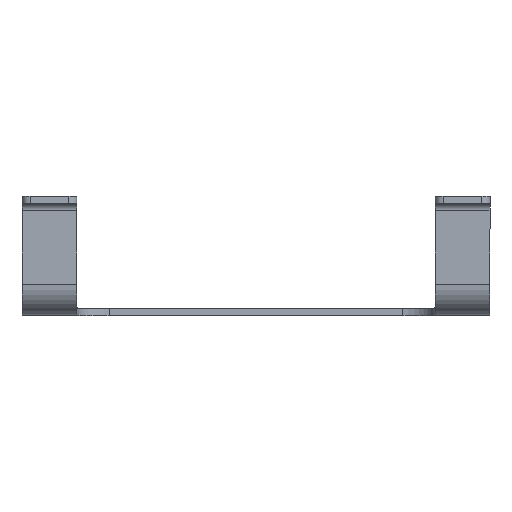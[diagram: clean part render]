
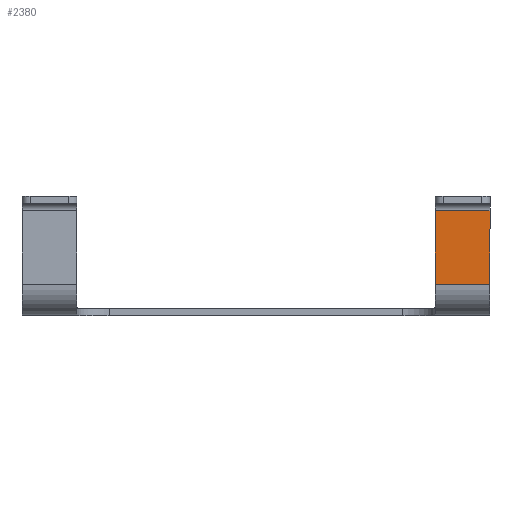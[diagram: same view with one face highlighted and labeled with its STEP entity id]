
A CAD part, front view. The second image highlights one B-rep face of the part: STEP entity #2380.
In plain terms, the highlighted planar face has unit normal (0, -1, 0).
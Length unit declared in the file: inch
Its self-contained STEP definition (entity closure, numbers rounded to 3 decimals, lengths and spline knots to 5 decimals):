
#38 = FACE_OUTER_BOUND ( 'NONE', #1548, .T. ) ;
#130 = ORIENTED_EDGE ( 'NONE', *, *, #1880, .F. ) ;
#254 = LINE ( 'NONE', #1509, #308 ) ;
#293 = EDGE_CURVE ( 'NONE', #2908, #1497, #343, .T. ) ;
#308 = VECTOR ( 'NONE', #2831, 39.37008 ) ;
#343 = LINE ( 'NONE', #2245, #868 ) ;
#406 = ORIENTED_EDGE ( 'NONE', *, *, #293, .T. ) ;
#459 = ORIENTED_EDGE ( 'NONE', *, *, #955, .T. ) ;
#627 = ORIENTED_EDGE ( 'NONE', *, *, #1956, .F. ) ;
#706 = LINE ( 'NONE', #1664, #2687 ) ;
#868 = VECTOR ( 'NONE', #1144, 39.37008 ) ;
#955 = EDGE_CURVE ( 'NONE', #1622, #2620, #1519, .T. ) ;
#1014 = CARTESIAN_POINT ( 'NONE',  ( 2.775, -3.165, 0.375 ) ) ;
#1131 = DIRECTION ( 'NONE',  ( 0., 0., -1. ) ) ;
#1144 = DIRECTION ( 'NONE',  ( 0., 0., 1. ) ) ;
#1497 = VERTEX_POINT ( 'NONE', #2061 ) ;
#1509 = CARTESIAN_POINT ( 'NONE',  ( 2.775, -3.165, 0.375 ) ) ;
#1519 = LINE ( 'NONE', #2823, #2412 ) ;
#1548 = EDGE_LOOP ( 'NONE', ( #130, #459, #627, #406 ) ) ;
#1594 = CARTESIAN_POINT ( 'NONE',  ( 0., -3.165, 0. ) ) ;
#1622 = VERTEX_POINT ( 'NONE', #2397 ) ;
#1664 = CARTESIAN_POINT ( 'NONE',  ( 2.775, -3.165, 1.5186 ) ) ;
#1717 = DIRECTION ( 'NONE',  ( 0., 1., 0. ) ) ;
#1880 = EDGE_CURVE ( 'NONE', #1622, #1497, #706, .T. ) ;
#1956 = EDGE_CURVE ( 'NONE', #2908, #2620, #254, .T. ) ;
#2058 = AXIS2_PLACEMENT_3D ( 'NONE', #1594, #1717, #2546 ) ;
#2061 = CARTESIAN_POINT ( 'NONE',  ( 3.625, -3.165, 1.5186 ) ) ;
#2245 = CARTESIAN_POINT ( 'NONE',  ( 3.625, -3.165, 0. ) ) ;
#2380 = ADVANCED_FACE ( 'NONE', ( #38 ), #2477, .F. ) ;
#2397 = CARTESIAN_POINT ( 'NONE',  ( 2.775, -3.165, 1.5186 ) ) ;
#2412 = VECTOR ( 'NONE', #1131, 39.37008 ) ;
#2477 = PLANE ( 'NONE',  #2058 ) ;
#2546 = DIRECTION ( 'NONE',  ( 0., 0., 1. ) ) ;
#2605 = DIRECTION ( 'NONE',  ( 1., 0., 0. ) ) ;
#2607 = CARTESIAN_POINT ( 'NONE',  ( 3.625, -3.165, 0.375 ) ) ;
#2620 = VERTEX_POINT ( 'NONE', #1014 ) ;
#2687 = VECTOR ( 'NONE', #2605, 39.37008 ) ;
#2823 = CARTESIAN_POINT ( 'NONE',  ( 2.775, -3.165, 0. ) ) ;
#2831 = DIRECTION ( 'NONE',  ( -1., 0., 0. ) ) ;
#2908 = VERTEX_POINT ( 'NONE', #2607 ) ;
